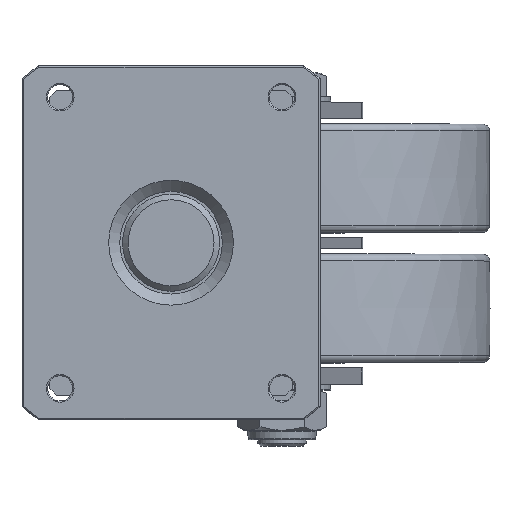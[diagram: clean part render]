
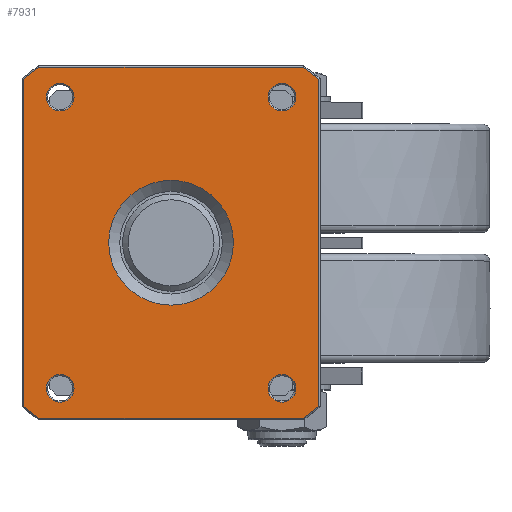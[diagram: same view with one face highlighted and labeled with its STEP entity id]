
A CAD part, top view. The second image highlights one B-rep face of the part: STEP entity #7931.
In plain terms, the highlighted planar face has unit normal (0, 0, 1).
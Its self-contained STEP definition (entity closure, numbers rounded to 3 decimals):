
#7674=CARTESIAN_POINT('',(-89.41,-136.789,13.5));
#7675=VERTEX_POINT('',#7674);
#7676=CARTESIAN_POINT('',(-100.582,-128.251,13.5));
#7677=VERTEX_POINT('',#7676);
#7678=CARTESIAN_POINT('',(-1.582,-10.289,13.5));
#7679=DIRECTION('',(0.0,0.0,-1.0));
#7680=DIRECTION('',(-1.0,0.0,0.0));
#7681=AXIS2_PLACEMENT_3D('',#7678,#7679,#7680);
#7682=CIRCLE('',#7681,154.0);
#7683=EDGE_CURVE('',#7675,#7677,#7682,.T.);
#7708=CARTESIAN_POINT('',(101.246,-136.789,13.5));
#7709=VERTEX_POINT('',#7708);
#7710=CARTESIAN_POINT('',(101.246,-136.789,13.5));
#7711=DIRECTION('',(-1.0,0.0,0.0));
#7712=VECTOR('',#7711,190.656);
#7713=LINE('',#7710,#7712);
#7714=EDGE_CURVE('',#7709,#7675,#7713,.T.);
#7733=CARTESIAN_POINT('',(112.418,-128.251,13.5));
#7734=VERTEX_POINT('',#7733);
#7735=CARTESIAN_POINT('',(13.418,-10.289,13.5));
#7736=DIRECTION('',(0.0,0.0,-1.0));
#7737=DIRECTION('',(1.0,0.0,0.0));
#7738=AXIS2_PLACEMENT_3D('',#7735,#7736,#7737);
#7739=CIRCLE('',#7738,154.);
#7740=EDGE_CURVE('',#7734,#7709,#7739,.T.);
#7759=CARTESIAN_POINT('',(112.418,107.673,13.5));
#7760=VERTEX_POINT('',#7759);
#7761=CARTESIAN_POINT('',(112.418,107.673,13.5));
#7762=DIRECTION('',(0.0,-1.0,0.0));
#7763=VECTOR('',#7762,235.924);
#7764=LINE('',#7761,#7763);
#7765=EDGE_CURVE('',#7760,#7734,#7764,.T.);
#7784=CARTESIAN_POINT('',(101.246,116.211,13.5));
#7785=VERTEX_POINT('',#7784);
#7786=CARTESIAN_POINT('',(13.418,-10.289,13.5));
#7787=DIRECTION('',(0.0,0.0,-1.0));
#7788=DIRECTION('',(1.0,0.0,0.0));
#7789=AXIS2_PLACEMENT_3D('',#7786,#7787,#7788);
#7790=CIRCLE('',#7789,154.);
#7791=EDGE_CURVE('',#7785,#7760,#7790,.T.);
#7810=CARTESIAN_POINT('',(-89.41,116.211,13.5));
#7811=VERTEX_POINT('',#7810);
#7819=CARTESIAN_POINT('',(-89.41,116.211,13.5));
#7820=DIRECTION('',(1.0,0.0,0.0));
#7821=VECTOR('',#7820,190.656);
#7822=LINE('',#7819,#7821);
#7823=EDGE_CURVE('',#7811,#7785,#7822,.T.);
#7835=CARTESIAN_POINT('',(-100.582,107.673,13.5));
#7836=VERTEX_POINT('',#7835);
#7846=CARTESIAN_POINT('',(-100.582,-128.251,13.5));
#7847=DIRECTION('',(0.0,1.0,0.0));
#7848=VECTOR('',#7847,235.924);
#7849=LINE('',#7846,#7848);
#7850=EDGE_CURVE('',#7677,#7836,#7849,.T.);
#7855=CARTESIAN_POINT('',(5.918,-10.289,13.5));
#7856=DIRECTION('',(0.0,0.0,1.0));
#7857=DIRECTION('',(-1.0,0.0,0.0));
#7858=AXIS2_PLACEMENT_3D('',#7855,#7856,#7857);
#7859=PLANE('',#7858);
#7860=CARTESIAN_POINT('',(-1.582,-10.289,13.5));
#7861=DIRECTION('',(0.0,0.0,-1.0));
#7862=DIRECTION('',(-1.0,0.0,0.0));
#7863=AXIS2_PLACEMENT_3D('',#7860,#7861,#7862);
#7864=CIRCLE('',#7863,154.0);
#7865=EDGE_CURVE('',#7836,#7811,#7864,.T.);
#7866=ORIENTED_EDGE('',*,*,#7865,.F.);
#7867=ORIENTED_EDGE('',*,*,#7850,.F.);
#7868=ORIENTED_EDGE('',*,*,#7683,.F.);
#7869=ORIENTED_EDGE('',*,*,#7714,.F.);
#7870=ORIENTED_EDGE('',*,*,#7740,.F.);
#7871=ORIENTED_EDGE('',*,*,#7765,.F.);
#7872=ORIENTED_EDGE('',*,*,#7791,.F.);
#7873=ORIENTED_EDGE('',*,*,#7823,.F.);
#7874=EDGE_LOOP('',(#7866,#7867,#7868,#7869,#7870,#7871,#7872,#7873));
#7875=FACE_OUTER_BOUND('',#7874,.T.);
#7876=CARTESIAN_POINT('',(-84.082,-115.289,13.5));
#7877=VERTEX_POINT('',#7876);
#7878=CARTESIAN_POINT('',(-74.082,-115.289,13.5));
#7879=DIRECTION('',(0.0,0.0,1.0));
#7880=DIRECTION('',(1.0,0.0,0.0));
#7881=AXIS2_PLACEMENT_3D('',#7878,#7879,#7880);
#7882=CIRCLE('',#7881,10.0);
#7883=EDGE_CURVE('',#7877,#7877,#7882,.T.);
#7884=ORIENTED_EDGE('',*,*,#7883,.F.);
#7885=EDGE_LOOP('',(#7884));
#7886=FACE_BOUND('',#7885,.T.);
#7887=CARTESIAN_POINT('',(75.918,94.711,13.5));
#7888=VERTEX_POINT('',#7887);
#7889=CARTESIAN_POINT('',(85.918,94.711,13.5));
#7890=DIRECTION('',(0.0,0.0,1.0));
#7891=DIRECTION('',(1.0,0.0,0.0));
#7892=AXIS2_PLACEMENT_3D('',#7889,#7890,#7891);
#7893=CIRCLE('',#7892,10.0);
#7894=EDGE_CURVE('',#7888,#7888,#7893,.T.);
#7895=ORIENTED_EDGE('',*,*,#7894,.F.);
#7896=EDGE_LOOP('',(#7895));
#7897=FACE_BOUND('',#7896,.T.);
#7898=CARTESIAN_POINT('',(-39.082,-10.289,13.5));
#7899=VERTEX_POINT('',#7898);
#7900=CARTESIAN_POINT('',(5.918,-10.289,13.5));
#7901=DIRECTION('',(0.0,0.0,-1.0));
#7902=DIRECTION('',(1.0,0.0,0.0));
#7903=AXIS2_PLACEMENT_3D('',#7900,#7901,#7902);
#7904=CIRCLE('',#7903,45.);
#7905=EDGE_CURVE('',#7899,#7899,#7904,.T.);
#7906=ORIENTED_EDGE('',*,*,#7905,.T.);
#7907=EDGE_LOOP('',(#7906));
#7908=FACE_BOUND('',#7907,.T.);
#7909=CARTESIAN_POINT('',(-84.082,94.711,13.5));
#7910=VERTEX_POINT('',#7909);
#7911=CARTESIAN_POINT('',(-74.082,94.711,13.5));
#7912=DIRECTION('',(0.0,0.0,1.0));
#7913=DIRECTION('',(1.0,0.0,0.0));
#7914=AXIS2_PLACEMENT_3D('',#7911,#7912,#7913);
#7915=CIRCLE('',#7914,10.0);
#7916=EDGE_CURVE('',#7910,#7910,#7915,.T.);
#7917=ORIENTED_EDGE('',*,*,#7916,.F.);
#7918=EDGE_LOOP('',(#7917));
#7919=FACE_BOUND('',#7918,.T.);
#7920=CARTESIAN_POINT('',(75.918,-115.289,13.5));
#7921=VERTEX_POINT('',#7920);
#7922=CARTESIAN_POINT('',(85.918,-115.289,13.5));
#7923=DIRECTION('',(0.0,0.0,1.0));
#7924=DIRECTION('',(1.0,0.0,0.0));
#7925=AXIS2_PLACEMENT_3D('',#7922,#7923,#7924);
#7926=CIRCLE('',#7925,10.0);
#7927=EDGE_CURVE('',#7921,#7921,#7926,.T.);
#7928=ORIENTED_EDGE('',*,*,#7927,.F.);
#7929=EDGE_LOOP('',(#7928));
#7930=FACE_BOUND('',#7929,.T.);
#7931=ADVANCED_FACE('',(#7875,#7886,#7897,#7908,#7919,#7930),#7859,.T.);
